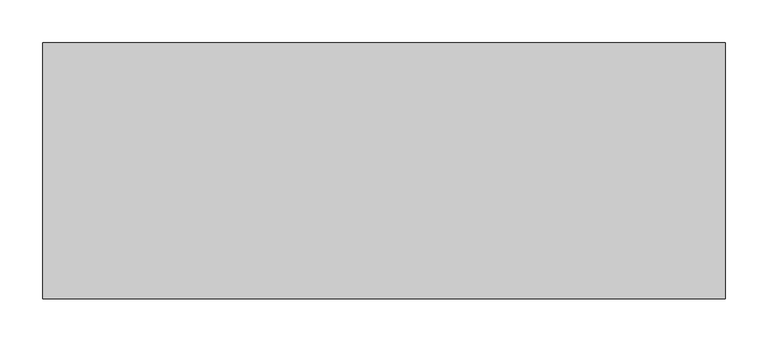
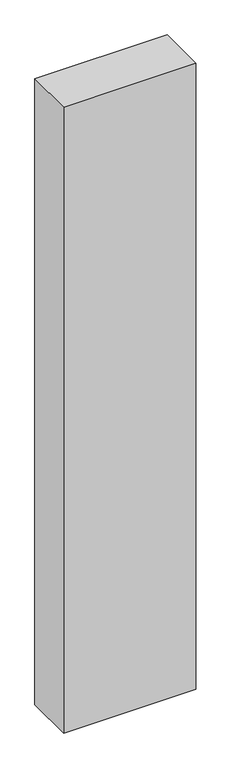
"""IFC4 building model written with IfcOpenShell, lengths in millimetres: column geometry, 02_Колонны_Создание : 02_Колонны_Создание."""

from ifc_helpers import new_model, si_unit, origin, origin_with_axes, place, context, project, spatial, polyline, outline, extrude, source, transform, mapped, element, save


def column_d2dc2f65(model_context):
    return source(origin(), model_context, "Body", "SweptSolid", [
        extrude(outline(polyline([(400.0, 150.0), (400.0, -150.0), (-400.0, -150.0), (-400.0, 150.0), (400.0, 150.0)])), origin_with_axes(), (0.0, 0.0, 1.0), 4000.0),
    ])


if __name__ == "__main__":
    model = new_model("IFC4")
    model_context = context("Model", 3, world=origin())
    ifc_project = project(units=[si_unit("LENGTHUNIT", "METRE", prefix="MILLI")], contexts=[model_context])
    site = spatial("IfcSite", under=ifc_project)
    building = spatial("IfcBuilding", under=site)
    placement = place(None, origin())
    column_shape = column_d2dc2f65(model_context)
    element("IfcColumn", 1, ObjectType="02_Колонны_Создание : 02_Колонны_Создание", at=placement, inside=building, context=model_context, shape_type="MappedRepresentation", body=[
        mapped(column_shape, transform((0.0, 0.0, 0.0), x_axis=(1.0, 0.0, 0.0), y_axis=(0.0, 1.0, 0.0), z_axis=(0.0, 0.0, 1.0))),
    ])
    save(model, "model.ifc")
